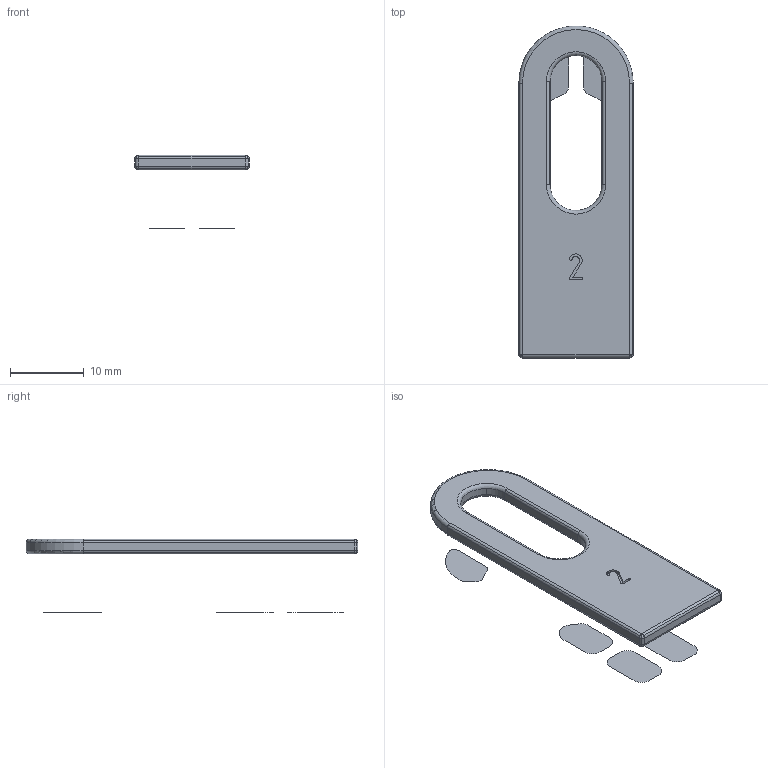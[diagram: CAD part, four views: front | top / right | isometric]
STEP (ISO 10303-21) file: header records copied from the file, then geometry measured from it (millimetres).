
FILE_DESCRIPTION(('STEP AP214'),'1');
FILE_NAME('BF-20240124-cad-shim1_2mm_light-02cbr.stp','2024-01-24T18:14:03',(' '),(' '),'Spatial InterOp 3D',' ',' ');
FILE_SCHEMA(('AUTOMOTIVE_DESIGN { 1 0 10303 214 1 1 1 1 }'));
Length unit declared in the file: metre
Products named in the file (1): Volumenkörper
Bounding box: 15.5 x 44.99 x 10 mm (x, y, z)
Volume: 1051.8 mm3; surface area: 1523.5 mm2
Topology: 1 solids, 7 shells, 88 faces, 265 edges, 180 vertices
Faces by surface type: cylinder 30, extrusion 26, plane 18, sphere 8, torus 6
Entity records: 3208 total; most frequent: CARTESIAN_POINT 795, ORIENTED_EDGE 462, DIRECTION 461, EDGE_CURVE 257, VERTEX_POINT 196, AXIS2_PLACEMENT_3D 164, VECTOR 133, LINE 107
